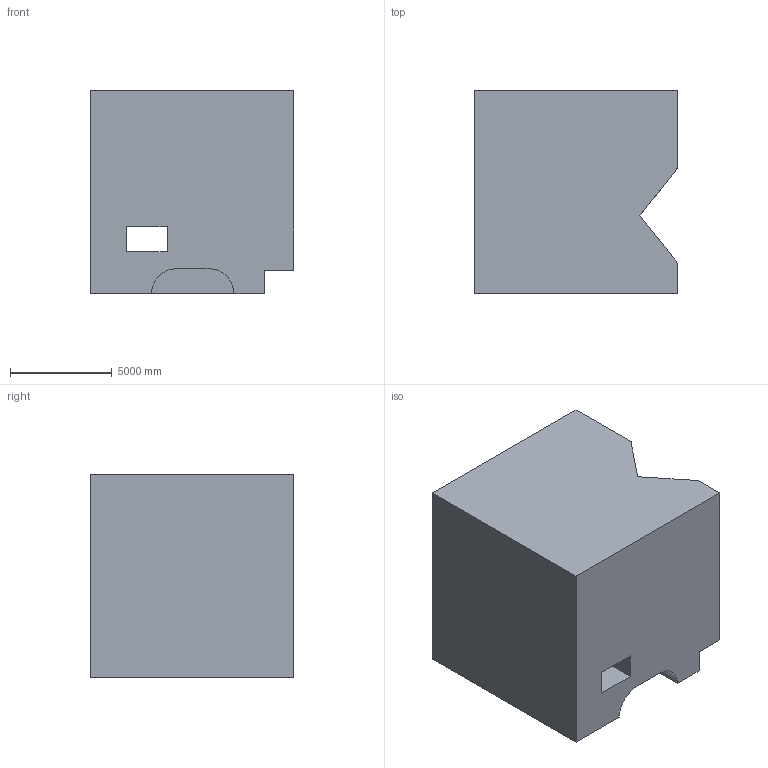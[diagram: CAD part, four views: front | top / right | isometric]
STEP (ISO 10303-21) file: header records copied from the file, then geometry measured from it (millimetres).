
FILE_DESCRIPTION (( 'STEP AP203' ), '1' );
FILE_NAME ('1452.STEP', '2022-08-18T14:33:40', ( 'user' ), ( '' ), 'SwSTEP 2.0', 'SolidWorks 2021', '' );
FILE_SCHEMA (( 'CONFIG_CONTROL_DESIGN' ));
Length unit declared in the file: centimetre
Products named in the file (1): 1452
Bounding box: 10000 x 10000 x 10000 mm (x, y, z)
Volume: 825906312989.5 mm3; surface area: 726866942 mm2
Topology: 1 solids, 1 shells, 30 faces, 84 edges, 56 vertices
Faces by surface type: plane 26, cylinder 4
Entity records: 1047 total; most frequent: CARTESIAN_POINT 171, ORIENTED_EDGE 168, DIRECTION 160, EDGE_CURVE 84, LINE 70, VECTOR 70, VERTEX_POINT 56, AXIS2_PLACEMENT_3D 45
